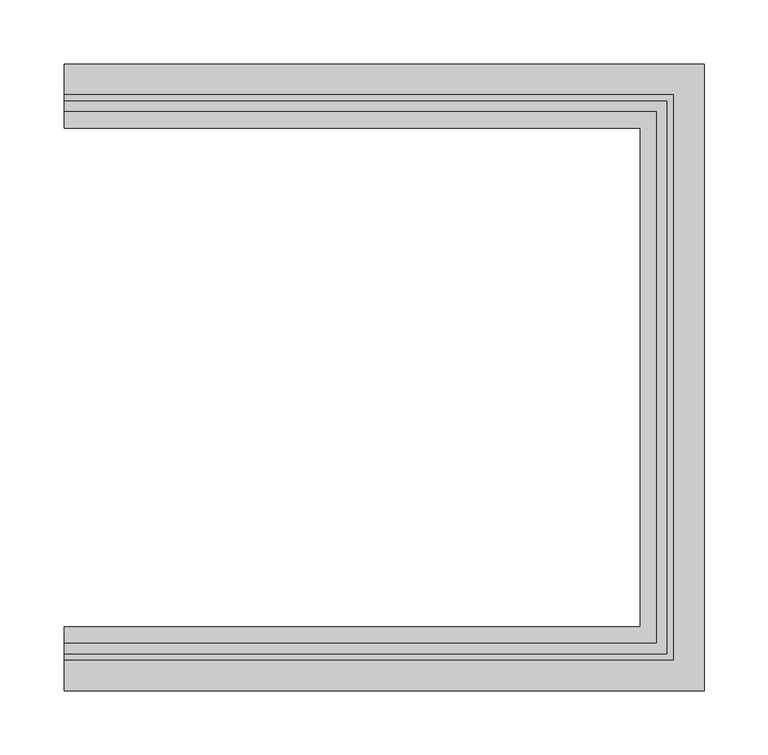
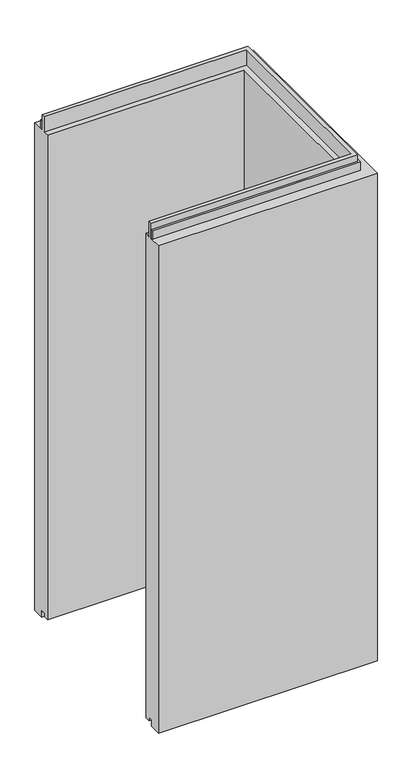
"""IFC4 building model written with IfcOpenShell, lengths in millimetres: plate geometry, Trimo_Qbiss Screen_U Corner Panel-HORIZONTAL : HR - B."""

from ifc_helpers import new_model, si_unit, frame, origin, place, context, project, spatial, polyline, outline, extrude, faceted_brep, source, transform, mapped, element, save


def plate_b28a252d(model_context):
    return source(origin(), model_context, "Body", "SolidModel", [
        faceted_brep([(-171.25, 116.0, 1177.0), (-171.25, 145.0, 1177.0), (-171.25, 145.0, 0.0), (-171.25, 117.0, 0.0), (-171.25, 117.0, 15.5), (-171.25, 107.0, 15.5), (-171.25, 107.0, 7.0), (-171.25, 95.0, 7.0), (-171.25, 95.0, 1177.0), (-171.25, 108.0, 1177.0), (-171.25, 108.0, 1214.5), (-171.25, 116.0, 1214.5), (299.75, 116.0, 1177.0), (299.75, -316.0, 1177.0), (-171.25, -316.0, 1177.0), (-171.25, -345.0, 1177.0), (328.75, -345.0, 1177.0), (328.75, 145.0, 1177.0), (328.75, 145.0, 0.0), (328.75, -345.0, 0.0), (-171.25, -345.0, 0.0), (-171.25, -317.0, 0.0), (300.75, -317.0, 0.0), (300.75, 117.0, 0.0), (300.75, 117.0, 15.5), (300.75, -317.0, 15.5), (-171.25, -317.0, 15.5), (-171.25, -307.0, 15.5), (290.75, -307.0, 15.5), (290.75, 107.0, 15.5), (290.75, 107.0, 7.0), (290.75, -307.0, 7.0), (-171.25, -307.0, 7.0), (-171.25, -295.0, 7.0), (278.75, -295.0, 7.0), (278.75, 95.0, 7.0), (278.75, 95.0, 1177.0), (278.75, -295.0, 1177.0), (-171.25, -295.0, 1177.0), (-171.25, -308.0, 1177.0), (291.75, -308.0, 1177.0), (291.75, 108.0, 1177.0), (291.75, 108.0, 1214.5), (291.75, -308.0, 1214.5), (-171.25, -308.0, 1214.5), (-171.25, -316.0, 1214.5), (299.75, -316.0, 1214.5), (299.75, 116.0, 1214.5)], [[[0, 1, 2, 3, 4, 5, 6, 7, 8, 9, 10, 11]], [[1, 0, 12, 13, 14, 15, 16, 17]], [[2, 1, 17, 18]], [[3, 2, 18, 19, 20, 21, 22, 23]], [[4, 3, 23, 24]], [[5, 4, 24, 25, 26, 27, 28, 29]], [[6, 5, 29, 30]], [[7, 6, 30, 31, 32, 33, 34, 35]], [[8, 7, 35, 36]], [[9, 8, 36, 37, 38, 39, 40, 41]], [[10, 9, 41, 42]], [[11, 10, 42, 43, 44, 45, 46, 47]], [[0, 11, 47, 12]], [[14, 45, 44, 39, 38, 33, 32, 27, 26, 21, 20, 15]], [[18, 17, 16, 19]], [[24, 23, 22, 25]], [[30, 29, 28, 31]], [[36, 35, 34, 37]], [[42, 41, 40, 43]], [[12, 47, 46, 13]], [[19, 16, 15, 20]], [[25, 22, 21, 26]], [[31, 28, 27, 32]], [[37, 34, 33, 38]], [[43, 40, 39, 44]], [[13, 46, 45, 14]]]),
        extrude(outline(polyline([(-171.25, 116.0), (-171.25, 121.0), (304.75, 121.0), (304.75, -321.0), (-171.25, -321.0), (-171.25, -316.0), (299.75, -316.0), (299.75, 116.0), (-171.25, 116.0)])), frame((0.0, 0.0, 1178.0), z_axis=(0.0, 0.0, 1.0), x_axis=(1.0, 0.0, 0.0)), (0.0, 0.0, 1.0), 21.0),
    ])


if __name__ == "__main__":
    model = new_model("IFC4")
    model_context = context("Model", 3, world=origin())
    ifc_project = project(units=[si_unit("LENGTHUNIT", "METRE", prefix="MILLI")], contexts=[model_context])
    site = spatial("IfcSite", under=ifc_project)
    building = spatial("IfcBuilding", under=site)
    placement = place(None, origin())
    plate_shape = plate_b28a252d(model_context)
    element("IfcPlate", 1, ObjectType="Trimo_Qbiss Screen_U Corner Panel-HORIZONTAL : HR - B", at=placement, inside=building, context=model_context, shape_type="MappedRepresentation", body=[
        mapped(plate_shape, transform((0.0, 0.0, 0.0), x_axis=(1.0, 0.0, 0.0), y_axis=(0.0, 1.0, 0.0), z_axis=(0.0, 0.0, 1.0))),
    ])
    save(model, "model.ifc")
